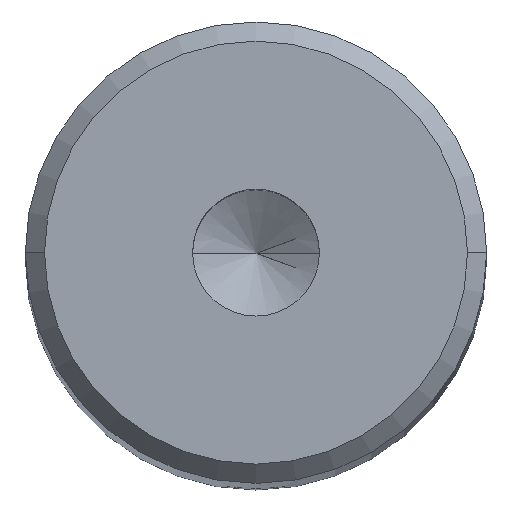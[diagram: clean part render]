
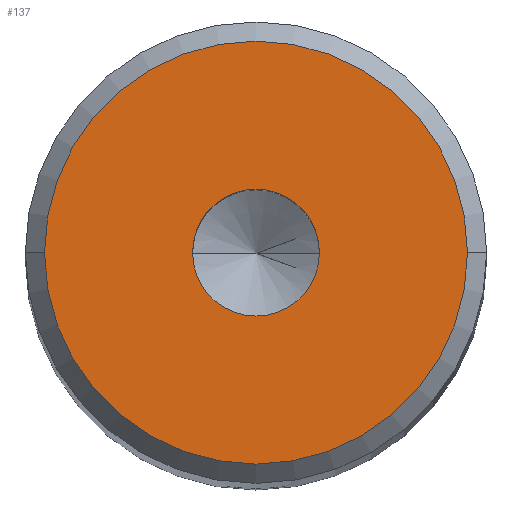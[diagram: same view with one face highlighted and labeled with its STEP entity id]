
A CAD part, top view. The second image highlights one B-rep face of the part: STEP entity #137.
In plain terms, the highlighted planar face has unit normal (0, 0, 1).
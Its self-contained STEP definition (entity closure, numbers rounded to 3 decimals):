
#14 = CARTESIAN_POINT ( 'NONE',  ( 1.65, 0., 100. ) ) ;
#19 = CARTESIAN_POINT ( 'NONE',  ( 0., 0., 100. ) ) ;
#46 = ORIENTED_EDGE ( 'NONE', *, *, #547, .T. ) ;
#50 = VERTEX_POINT ( 'NONE', #438 ) ;
#56 = VERTEX_POINT ( 'NONE', #575 ) ;
#70 = ORIENTED_EDGE ( 'NONE', *, *, #426, .F. ) ;
#81 = CARTESIAN_POINT ( 'NONE',  ( 0., 0., 100. ) ) ;
#82 = DIRECTION ( 'NONE',  ( 1., 0., 0. ) ) ;
#95 = CARTESIAN_POINT ( 'NONE',  ( 0., 0., 100. ) ) ;
#114 = DIRECTION ( 'NONE',  ( 0., 0., 1. ) ) ;
#121 = DIRECTION ( 'NONE',  ( 0., 0., 1. ) ) ;
#132 = EDGE_LOOP ( 'NONE', ( #70, #361 ) ) ;
#137 = ADVANCED_FACE ( 'NONE', ( #408, #389 ), #573, .T. ) ;
#147 = AXIS2_PLACEMENT_3D ( 'NONE', #19, #483, #585 ) ;
#167 = EDGE_CURVE ( 'NONE', #50, #235, #502, .T. ) ;
#173 = DIRECTION ( 'NONE',  ( 1., 0., 0. ) ) ;
#204 = DIRECTION ( 'NONE',  ( 1., 0., 0. ) ) ;
#235 = VERTEX_POINT ( 'NONE', #353 ) ;
#236 = AXIS2_PLACEMENT_3D ( 'NONE', #81, #121, #173 ) ;
#270 = DIRECTION ( 'NONE',  ( 1., 0., 0. ) ) ;
#298 = CARTESIAN_POINT ( 'NONE',  ( 0., 0., 100. ) ) ;
#316 = DIRECTION ( 'NONE',  ( 0., 0., 1. ) ) ;
#328 = AXIS2_PLACEMENT_3D ( 'NONE', #298, #345, #270 ) ;
#345 = DIRECTION ( 'NONE',  ( 0., 0., 1. ) ) ;
#353 = CARTESIAN_POINT ( 'NONE',  ( -5.5, 0., 100. ) ) ;
#361 = ORIENTED_EDGE ( 'NONE', *, *, #507, .F. ) ;
#385 = VERTEX_POINT ( 'NONE', #14 ) ;
#389 = FACE_OUTER_BOUND ( 'NONE', #591, .T. ) ;
#408 = FACE_BOUND ( 'NONE', #132, .T. ) ;
#426 = EDGE_CURVE ( 'NONE', #385, #56, #597, .T. ) ;
#438 = CARTESIAN_POINT ( 'NONE',  ( 5.5, 0., 100. ) ) ;
#465 = AXIS2_PLACEMENT_3D ( 'NONE', #528, #316, #82 ) ;
#483 = DIRECTION ( 'NONE',  ( 0., 0., 1. ) ) ;
#492 = ORIENTED_EDGE ( 'NONE', *, *, #167, .T. ) ;
#496 = CIRCLE ( 'NONE', #147, 1.65 ) ;
#502 = CIRCLE ( 'NONE', #465, 5.5 ) ;
#507 = EDGE_CURVE ( 'NONE', #56, #385, #496, .T. ) ;
#528 = CARTESIAN_POINT ( 'NONE',  ( 0., 0., 100. ) ) ;
#530 = CIRCLE ( 'NONE', #236, 5.5 ) ;
#531 = AXIS2_PLACEMENT_3D ( 'NONE', #95, #114, #204 ) ;
#547 = EDGE_CURVE ( 'NONE', #235, #50, #530, .T. ) ;
#573 = PLANE ( 'NONE',  #328 ) ;
#575 = CARTESIAN_POINT ( 'NONE',  ( -1.65, 0., 100. ) ) ;
#585 = DIRECTION ( 'NONE',  ( 1., 0., 0. ) ) ;
#591 = EDGE_LOOP ( 'NONE', ( #46, #492 ) ) ;
#597 = CIRCLE ( 'NONE', #531, 1.65 ) ;
